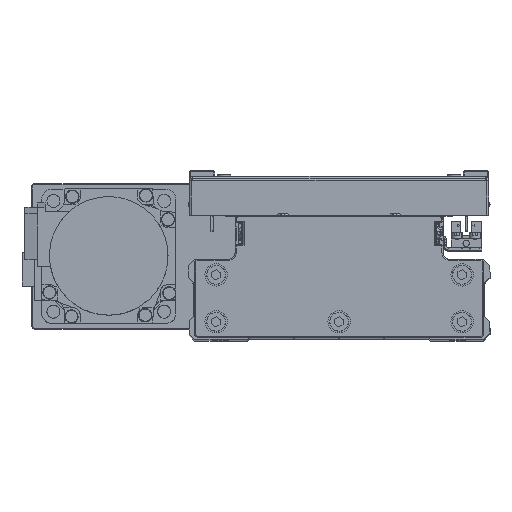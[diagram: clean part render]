
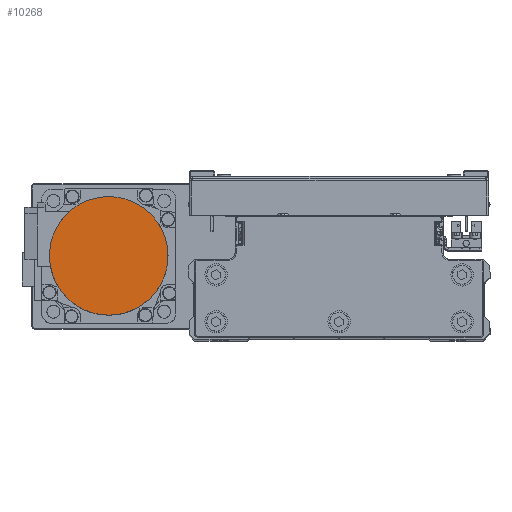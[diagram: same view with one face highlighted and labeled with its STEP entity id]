
A CAD part, top view. The second image highlights one B-rep face of the part: STEP entity #10268.
In plain terms, the highlighted planar face has unit normal (0, 0, 1) as drawn and (0, 0, -1) by its records, which use the part's own axes.
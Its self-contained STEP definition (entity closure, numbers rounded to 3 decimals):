
#716 = CARTESIAN_POINT ( 'NONE',  ( -23.819, -11.744, -109.7 ) ) ;
#799 = VERTEX_POINT ( 'NONE', #28701 ) ;
#940 = CARTESIAN_POINT ( 'NONE',  ( 3.469, -26.329, -109.7 ) ) ;
#991 = VERTEX_POINT ( 'NONE', #30448 ) ;
#1149 = CARTESIAN_POINT ( 'NONE',  ( 26.329, -3.469, -109.7 ) ) ;
#1367 = CARTESIAN_POINT ( 'NONE',  ( 25.652, 6.871, -109.7 ) ) ;
#1596 = CARTESIAN_POINT ( 'NONE',  ( 1.734, 26.5, -109.7 ) ) ;
#1802 = CARTESIAN_POINT ( 'NONE',  ( -25.147, 8.539, -109.7 ) ) ;
#3795 = EDGE_CURVE ( 'NONE', #991, #799, #40773, .T. ) ;
#4022 = CARTESIAN_POINT ( 'NONE',  ( -26.329, -3.469, -109.7 ) ) ;
#4235 = CARTESIAN_POINT ( 'NONE',  ( -3.469, -26.329, -109.7 ) ) ;
#4469 = CARTESIAN_POINT ( 'NONE',  ( 23.819, -11.744, -109.7 ) ) ;
#4694 = CARTESIAN_POINT ( 'NONE',  ( 26.5, 0., -109.7 ) ) ;
#4899 = CARTESIAN_POINT ( 'NONE',  ( 8.539, 25.147, -109.7 ) ) ;
#5114 = CARTESIAN_POINT ( 'NONE',  ( -21.07, 16.165, -109.7 ) ) ;
#5857 = DIRECTION ( 'NONE',  ( 0., 0., 1. ) ) ;
#7495 = ORIENTED_EDGE ( 'NONE', *, *, #3795, .F. ) ;
#7551 = CARTESIAN_POINT ( 'NONE',  ( -11.744, -23.819, -109.7 ) ) ;
#7758 = CARTESIAN_POINT ( 'NONE',  ( 19.965, -17.512, -109.7 ) ) ;
#8212 = CARTESIAN_POINT ( 'NONE',  ( 16.165, 21.07, -109.7 ) ) ;
#8410 = CARTESIAN_POINT ( 'NONE',  ( -16.165, 21.07, -109.7 ) ) ;
#9150 = FACE_OUTER_BOUND ( 'NONE', #35078, .T. ) ;
#10268 = ADVANCED_FACE ( 'NONE', ( #9150 ), #22542, .F. ) ;
#10839 = CARTESIAN_POINT ( 'NONE',  ( -17.512, -19.965, -109.7 ) ) ;
#11060 = CARTESIAN_POINT ( 'NONE',  ( 13.28, -22.998, -109.7 ) ) ;
#11500 = CARTESIAN_POINT ( 'NONE',  ( 21.07, 16.165, -109.7 ) ) ;
#11716 = CARTESIAN_POINT ( 'NONE',  ( -8.539, 25.147, -109.7 ) ) ;
#11916 = CARTESIAN_POINT ( 'NONE',  ( -26.5, 0., -109.7 ) ) ;
#14129 = CARTESIAN_POINT ( 'NONE',  ( -22.998, -13.28, -109.7 ) ) ;
#14356 = CARTESIAN_POINT ( 'NONE',  ( 6.871, -25.652, -109.7 ) ) ;
#14571 = CARTESIAN_POINT ( 'NONE',  ( 26.5, -1.734, -109.7 ) ) ;
#14791 = CARTESIAN_POINT ( 'NONE',  ( 25.147, 8.539, -109.7 ) ) ;
#15011 = CARTESIAN_POINT ( 'NONE',  ( -1.734, 26.5, -109.7 ) ) ;
#15226 = CARTESIAN_POINT ( 'NONE',  ( -25.652, 6.871, -109.7 ) ) ;
#17419 = CARTESIAN_POINT ( 'NONE',  ( -25.652, -6.871, -109.7 ) ) ;
#17628 = CARTESIAN_POINT ( 'NONE',  ( -1.734, -26.5, -109.7 ) ) ;
#17856 = CARTESIAN_POINT ( 'NONE',  ( 25.147, -8.539, -109.7 ) ) ;
#18083 = CARTESIAN_POINT ( 'NONE',  ( 26.5, 1.734, -109.7 ) ) ;
#18247 = B_SPLINE_CURVE_WITH_KNOTS ( 'NONE', 3,
 ( #4694, #18083, #31466, #1367, #14791, #28180, #41561, #11500, #24896, #38270, #8212, #21610, #34987, #4899, #18294, #31681, #1596, #15011, #28390, #41764, #11716, #25106, #38475, #8410, #21810, #35207, #5114, #18511, #31899, #1802, #15226, #28605, #41972, #11916 ),
 .UNSPECIFIED., .F., .F.,
 ( 4, 2, 2, 2, 2, 2, 2, 2, 2, 2, 2, 2, 2, 2, 2, 2, 4 ),
 ( 0., 0.062, 0.125, 0.187, 0.25, 0.312, 0.375, 0.437, 0.5, 0.562, 0.625, 0.687, 0.75, 0.813, 0.875, 0.938, 1. ),
 .UNSPECIFIED. ) ;
#18294 = CARTESIAN_POINT ( 'NONE',  ( 6.871, 25.652, -109.7 ) ) ;
#18511 = CARTESIAN_POINT ( 'NONE',  ( -22.998, 13.28, -109.7 ) ) ;
#19253 = DIRECTION ( 'NONE',  ( 1., 0., 0. ) ) ;
#20721 = CARTESIAN_POINT ( 'NONE',  ( -26.5, 0., -109.7 ) ) ;
#20941 = CARTESIAN_POINT ( 'NONE',  ( -8.539, -25.147, -109.7 ) ) ;
#21160 = CARTESIAN_POINT ( 'NONE',  ( 21.07, -16.165, -109.7 ) ) ;
#21291 = AXIS2_PLACEMENT_3D ( 'NONE', #35945, #5857, #19253 ) ;
#21610 = CARTESIAN_POINT ( 'NONE',  ( 13.28, 22.998, -109.7 ) ) ;
#21810 = CARTESIAN_POINT ( 'NONE',  ( -17.512, 19.965, -109.7 ) ) ;
#22542 = PLANE ( 'NONE',  #21291 ) ;
#24231 = CARTESIAN_POINT ( 'NONE',  ( -16.165, -21.07, -109.7 ) ) ;
#24454 = CARTESIAN_POINT ( 'NONE',  ( 16.165, -21.07, -109.7 ) ) ;
#24896 = CARTESIAN_POINT ( 'NONE',  ( 19.965, 17.512, -109.7 ) ) ;
#25106 = CARTESIAN_POINT ( 'NONE',  ( -11.744, 23.819, -109.7 ) ) ;
#27522 = CARTESIAN_POINT ( 'NONE',  ( -21.07, -16.165, -109.7 ) ) ;
#27738 = CARTESIAN_POINT ( 'NONE',  ( 8.539, -25.147, -109.7 ) ) ;
#27957 = CARTESIAN_POINT ( 'NONE',  ( 26.5, 0., -109.7 ) ) ;
#28180 = CARTESIAN_POINT ( 'NONE',  ( 23.819, 11.744, -109.7 ) ) ;
#28390 = CARTESIAN_POINT ( 'NONE',  ( -3.469, 26.329, -109.7 ) ) ;
#28605 = CARTESIAN_POINT ( 'NONE',  ( -26.329, 3.469, -109.7 ) ) ;
#28701 = CARTESIAN_POINT ( 'NONE',  ( 26.5, 0., -109.7 ) ) ;
#30448 = CARTESIAN_POINT ( 'NONE',  ( -26.5, 0., -109.7 ) ) ;
#30811 = CARTESIAN_POINT ( 'NONE',  ( -25.147, -8.539, -109.7 ) ) ;
#31026 = CARTESIAN_POINT ( 'NONE',  ( 1.734, -26.5, -109.7 ) ) ;
#31246 = CARTESIAN_POINT ( 'NONE',  ( 25.652, -6.871, -109.7 ) ) ;
#31466 = CARTESIAN_POINT ( 'NONE',  ( 26.329, 3.469, -109.7 ) ) ;
#31681 = CARTESIAN_POINT ( 'NONE',  ( 3.469, 26.329, -109.7 ) ) ;
#31899 = CARTESIAN_POINT ( 'NONE',  ( -23.819, 11.744, -109.7 ) ) ;
#34112 = CARTESIAN_POINT ( 'NONE',  ( -26.5, -1.734, -109.7 ) ) ;
#34322 = CARTESIAN_POINT ( 'NONE',  ( -6.871, -25.652, -109.7 ) ) ;
#34542 = CARTESIAN_POINT ( 'NONE',  ( 22.998, -13.28, -109.7 ) ) ;
#34743 = EDGE_CURVE ( 'NONE', #799, #991, #18247, .T. ) ;
#34987 = CARTESIAN_POINT ( 'NONE',  ( 11.744, 23.819, -109.7 ) ) ;
#35078 = EDGE_LOOP ( 'NONE', ( #40569, #7495 ) ) ;
#35207 = CARTESIAN_POINT ( 'NONE',  ( -19.965, 17.512, -109.7 ) ) ;
#35945 = CARTESIAN_POINT ( 'NONE',  ( 0., 0., -109.7 ) ) ;
#37617 = CARTESIAN_POINT ( 'NONE',  ( -13.28, -22.998, -109.7 ) ) ;
#37823 = CARTESIAN_POINT ( 'NONE',  ( 17.512, -19.965, -109.7 ) ) ;
#38270 = CARTESIAN_POINT ( 'NONE',  ( 17.512, 19.965, -109.7 ) ) ;
#38475 = CARTESIAN_POINT ( 'NONE',  ( -13.28, 22.998, -109.7 ) ) ;
#40569 = ORIENTED_EDGE ( 'NONE', *, *, #34743, .F. ) ;
#40773 = B_SPLINE_CURVE_WITH_KNOTS ( 'NONE', 3,
 ( #20721, #34112, #4022, #17419, #30811, #716, #14129, #27522, #40897, #10839, #24231, #37617, #7551, #20941, #34322, #4235, #17628, #31026, #940, #14356, #27738, #41116, #11060, #24454, #37823, #7758, #21160, #34542, #4469, #17856, #31246, #1149, #14571, #27957 ),
 .UNSPECIFIED., .F., .F.,
 ( 4, 2, 2, 2, 2, 2, 2, 2, 2, 2, 2, 2, 2, 2, 2, 2, 4 ),
 ( 0., 0.063, 0.125, 0.188, 0.25, 0.312, 0.375, 0.437, 0.5, 0.562, 0.625, 0.687, 0.75, 0.813, 0.875, 0.938, 1. ),
 .UNSPECIFIED. ) ;
#40897 = CARTESIAN_POINT ( 'NONE',  ( -19.965, -17.512, -109.7 ) ) ;
#41116 = CARTESIAN_POINT ( 'NONE',  ( 11.744, -23.819, -109.7 ) ) ;
#41561 = CARTESIAN_POINT ( 'NONE',  ( 22.998, 13.28, -109.7 ) ) ;
#41764 = CARTESIAN_POINT ( 'NONE',  ( -6.871, 25.652, -109.7 ) ) ;
#41972 = CARTESIAN_POINT ( 'NONE',  ( -26.5, 1.734, -109.7 ) ) ;
